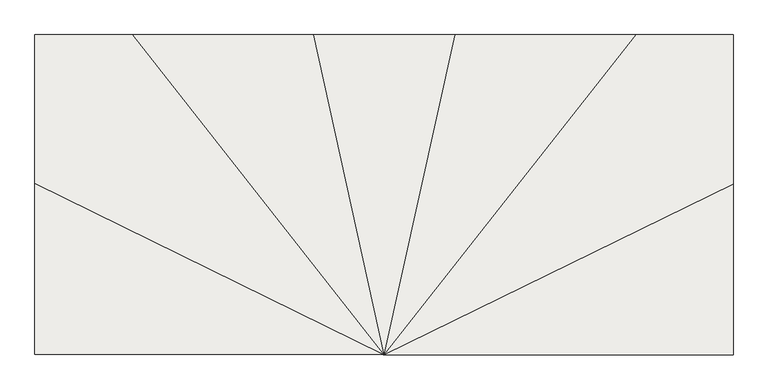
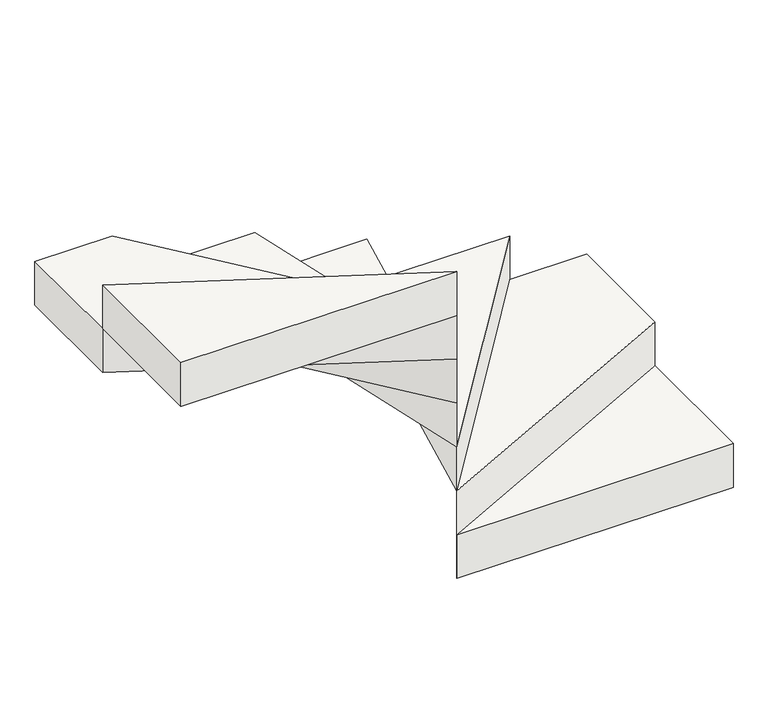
"""IFC4 building model written with IfcOpenShell, lengths in millimetres: slab geometry, Peldaño 3 : Peldaño 1."""

from ifc_helpers import new_model, si_unit, frame, origin, place, context, project, spatial, polyline, outline, extrude, source, transform, mapped, element, save


def slab_45828cb8(model_context):
    return source(origin(), model_context, "Body", "SweptSolid", [
        extrude(outline(polyline([(9215.0, 7645.5788917), (9215.0, 8185.5788917), (10314.0698338, 7644.1272561), (9215.0, 7645.5788917)])), frame((0.0, 0.0, 5195.0014808), z_axis=(0.0, 0.0, 1.0), x_axis=(1.0, 0.0, 0.0)), (0.0, 0.0, 1.0), 185.0),
        extrude(outline(polyline([(9522.5030455, 8653.9994552), (10314.0698338, 7644.1272561), (9215.0, 8185.5788917), (9215.0, 8653.9994552), (9522.5030455, 8653.9994552)])), frame((0.0, 0.0, 5010.0014808), z_axis=(0.0, 0.0, 1.0), x_axis=(1.0, 0.0, 0.0)), (0.0, 0.0, 1.0), 185.0),
        extrude(outline(polyline([(9522.5030455, 8653.9994552), (10091.9400865, 8653.9994552), (10314.0698338, 7644.1272561), (9522.5030455, 8653.9994552)])), frame((0.0, 0.0, 4825.0014808), z_axis=(0.0, 0.0, 1.0), x_axis=(1.0, 0.0, 0.0)), (0.0, 0.0, 1.0), 185.0),
        extrude(outline(polyline([(10091.9400865, 8653.9994552), (10538.0599135, 8653.9994552), (10314.0698338, 7644.1272561), (10091.9400865, 8653.9994552)])), frame((0.0, 0.0, 4640.0014808), z_axis=(0.0, 0.0, 1.0), x_axis=(1.0, 0.0, 0.0)), (0.0, 0.0, 1.0), 185.0),
        extrude(outline(polyline([(10538.0599135, 8653.9994552), (11107.4969545, 8653.9994552), (10314.0698338, 7644.1272561), (10538.0599135, 8653.9994552)])), frame((0.0, 0.0, 4455.0014808), z_axis=(0.0, 0.0, 1.0), x_axis=(1.0, 0.0, 0.0)), (0.0, 0.0, 1.0), 185.0),
        extrude(outline(polyline([(11415.0, 8653.9994552), (11415.0, 8183.9994552), (10314.0698338, 7644.1272561), (11107.4969545, 8653.9994552), (11415.0, 8653.9994552)])), frame((0.0, 0.0, 4085.0014808), z_axis=(0.0, 0.0, 1.0), x_axis=(1.0, 0.0, 0.0)), (0.0, 0.0, 1.0), 370.0),
        extrude(outline(polyline([(11415.0, 8183.9994552), (11415.0, 7644.1272561), (10314.0698338, 7644.1272561), (11415.0, 8183.9994552)])), frame((0.0, 0.0, 4085.0014808), z_axis=(0.0, 0.0, 1.0), x_axis=(1.0, 0.0, 0.0)), (0.0, 0.0, 1.0), 185.0),
    ])


if __name__ == "__main__":
    model = new_model("IFC4")
    model_context = context("Model", 3, world=origin())
    ifc_project = project(units=[si_unit("LENGTHUNIT", "METRE", prefix="MILLI")], contexts=[model_context])
    site = spatial("IfcSite", under=ifc_project)
    building = spatial("IfcBuilding", under=site)
    placement = place(None, origin())
    slab_shape = slab_45828cb8(model_context)
    element("IfcSlab", 1, ObjectType="Peldaño 3 : Peldaño 1", at=placement, inside=building, context=model_context, shape_type="MappedRepresentation", body=[
        mapped(slab_shape, transform((0.0, 0.0, 0.0), x_axis=(1.0, 0.0, 0.0), y_axis=(0.0, 1.0, 0.0), z_axis=(0.0, 0.0, 1.0))),
    ])
    save(model, "model.ifc")
